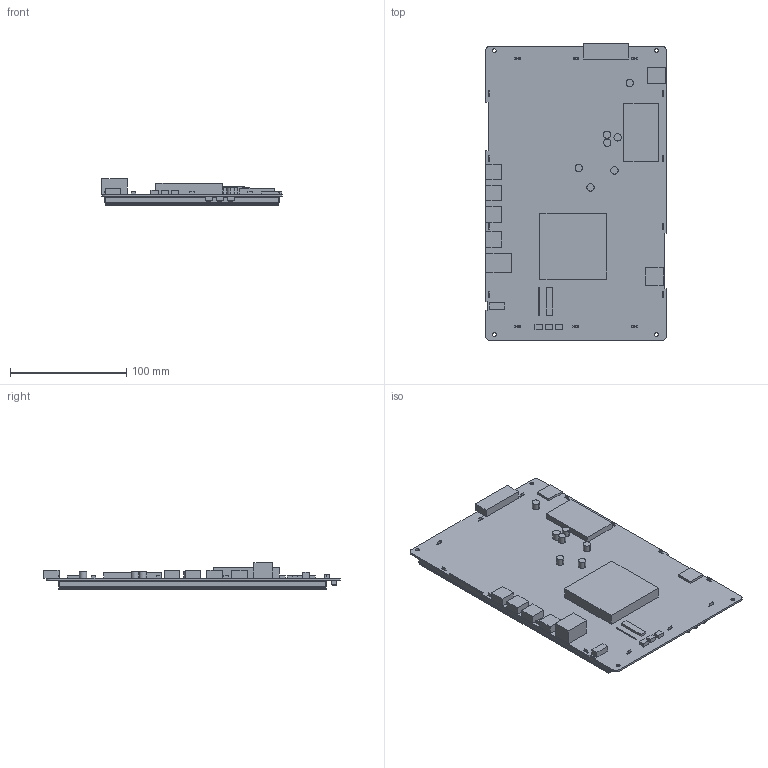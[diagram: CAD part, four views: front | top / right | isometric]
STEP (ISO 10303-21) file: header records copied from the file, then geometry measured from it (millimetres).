
FILE_DESCRIPTION((''),'2;1');
FILE_NAME('DMG12800T101-33WTC','2022-10-26T',('Administrator'),(''),'PRO/ENGINEER BY PARAMETRIC TECHNOLOGY CORPORATION, 2011310','PRO/ENGINEER BY PARAMETRIC TECHNOLOGY CORPORATION, 2011310','');
FILE_SCHEMA(('CONFIG_CONTROL_DESIGN','SHAPE_APPEARANCE_LAYERS_GROUPS'));
Products named in the file (1): DMG12800T101-33WTC
Bounding box: 155.32 x 254.99 x 23.07 mm (x, y, z)
Volume: 337478.2 mm3; surface area: 232818.4 mm2
Topology: 1 solids, 1 shells, 409 faces, 20433 edges, 21158 vertices
Faces by surface type: plane 371, cylinder 38
Entity records: 217153 total; most frequent: DIRECTION 25344, PRESENTATION_STYLE_ASSIGNMENT 23635, STYLED_ITEM 23635, CARTESIAN_POINT 21611, CURVE_STYLE 21375, TRIMMED_CURVE 19255, COMPOSITE_CURVE_SEGMENT 18107, VECTOR 16346
